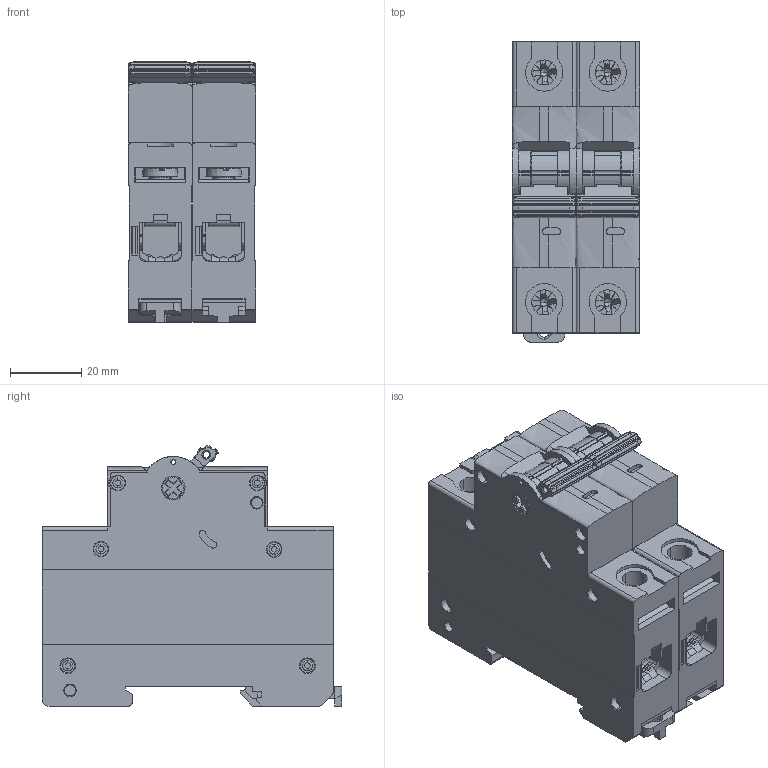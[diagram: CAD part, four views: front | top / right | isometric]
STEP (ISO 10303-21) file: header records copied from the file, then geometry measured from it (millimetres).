
FILE_DESCRIPTION (( 'STEP AP214' ), '1' );
FILE_NAME ('2P.STEP', '2026-07-03T12:15:26', ( '' ), ( '' ), 'SwSTEP 2.0', 'SolidWorks 2022', '' );
FILE_SCHEMA (( 'AUTOMOTIVE_DESIGN' ));
Length unit declared in the file: millimetre
Products named in the file (3): swn 1p без; swn 1p; 2P
Assembly tree (2 placements, depth 2):
  2P
    swn 1p
    swn 1p без
Bounding box: 35.6 x 84 x 72.9 mm (x, y, z)
Volume: 148349.8 mm3; surface area: 70483 mm2
Topology: 2 solids, 89 shells, 5966 faces, 16391 edges, 10758 vertices
Faces by surface type: plane 3671, bspline 1108, cylinder 831, torus 192, cone 132, sphere 32
Entity records: 296534 total; most frequent: CARTESIAN_POINT 88748, ORIENTED_EDGE 32702, DIRECTION 25562, EDGE_CURVE 16351, VECTOR 11022, LINE 11022, VERTEX_POINT 10742, AXIS2_PLACEMENT_3D 7270
